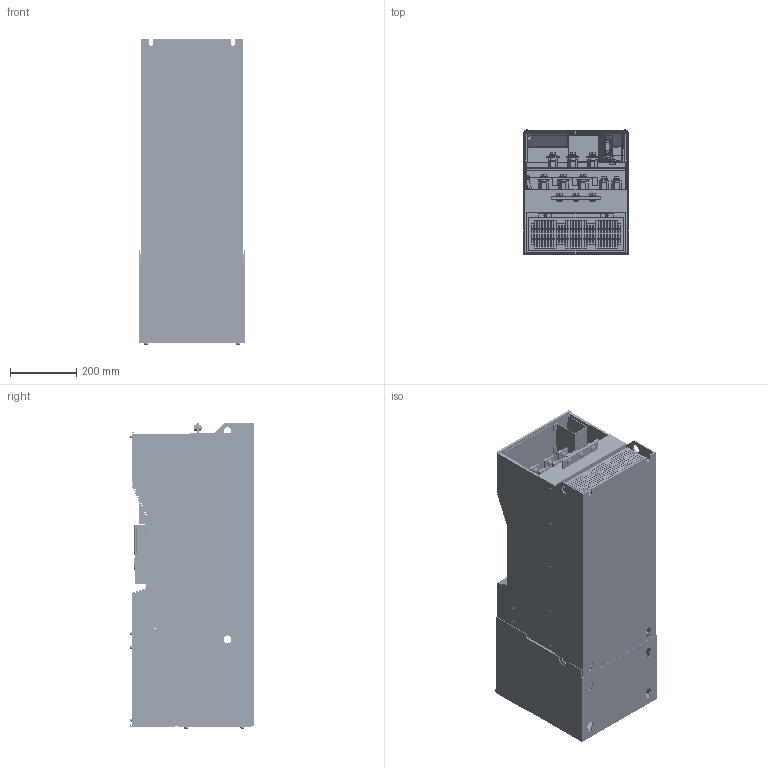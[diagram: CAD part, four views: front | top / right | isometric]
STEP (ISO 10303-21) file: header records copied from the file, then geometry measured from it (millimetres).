
FILE_DESCRIPTION(('STEP AP203'),'1');
FILE_NAME('s6571370.stp','2022-04-13T00:38:31',(' '),(' '),'Spatial InterOp 3D',' ',' ');
FILE_SCHEMA(('CONFIG_CONTROL_DESIGN'));
Length unit declared in the file: metre
Products named in the file (64): VFAS3J_J10_000; VFAS3J_DRIVE_J10; S6571331_000; VFAS3J_DISPLAY; VFAS3J_CTR_TERM; VFAS3J_DISPLAY_COVER; Cable_CLAMP; M10X20; M10X202; M10X203; M10X204; M10X205; M10X206; M10X207; M10X208; M10X209; M8X20; M8X202; M12_W-M; M12X35; M12_W-M2; M12_SW; M12_HN; M12_W-M3; M12X352; M12_W-M4; M12_SW2; M12_HN2; M12_W-M5; M12X353; M12_W-M6; M12_SW3; M12_HN3; M8_NUT_WITH_WASHER; VFAS3J_GROUNDING_SWITCHING_BAR; VFAS3J_CABLE_CHANNEL_J10; VFAS3J_TERMINAL_COVER_J10; VFAS3J_FRONT_COVER_J10; VFAS3J_CHANNEL_COVER_HHP; s6571370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
Assembly tree (63 placements, depth 3):
  s6571370
    VFAS3J_J10_000
      VFAS3J_DRIVE_J10
      S6571331_000
      VFAS3J_DISPLAY
      VFAS3J_CTR_TERM
      VFAS3J_DISPLAY_COVER
      Cable_CLAMP
      M10X20
      M10X202
      M10X203
      M10X204
      M10X205
      M10X206
      M10X207
      M10X208
      M10X209
      M8X20
      M8X202
      M12_W-M
      M12X35
      M12_W-M2
      M12_SW
      M12_HN
      M12_W-M3
      M12X352
      M12_W-M4
      M12_SW2
      M12_HN2
      M12_W-M5
      M12X353
      M12_W-M6
      M12_SW3
      M12_HN3
      M8_NUT_WITH_WASHER
      VFAS3J_GROUNDING_SWITCHING_BAR
      VFAS3J_CABLE_CHANNEL_J10
      VFAS3J_TERMINAL_COVER_J10
      VFAS3J_FRONT_COVER_J10
      VFAS3J_CHANNEL_COVER_HHP
    DCL1_OPTION_S9
      DCL1_OPTION_BOX_S9
      DC-CHOKE_2550
      M8_NUT_WITH_WASHER2
      M6_NUT_WITH_WASHER
      M6_NUT_WITH_WASHER2
      M6_NUT_WITH_WASHER3
      M6_NUT_WITH_WASHER4
      W-M_M12
      HB_M12_35
      W-M_M122
      SW-2_M12
      HN_M12
      W-M_M123
      HB_M12_352
      W-M_M124
      SW-2_M122
      HN_M122
      DCL1_OPTION_TB-BOX_S9
      M6_NUT_WITH_WASHER5
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Bounding box: 320 x 375 x 926.4 mm (x, y, z)
Volume: 56687521.2 mm3; surface area: 4088411 mm2
Topology: 95 solids, 99 shells, 8963 faces, 24478 edges, 16162 vertices
Faces by surface type: plane 7527, cylinder 1114, torus 150, cone 92, sphere 80
Entity records: 286721 total; most frequent: CARTESIAN_POINT 50629, ORIENTED_EDGE 48796, DIRECTION 45510, EDGE_CURVE 24398, LINE 21118, VECTOR 21118, VERTEX_POINT 16162, AXIS2_PLACEMENT_3D 12196
